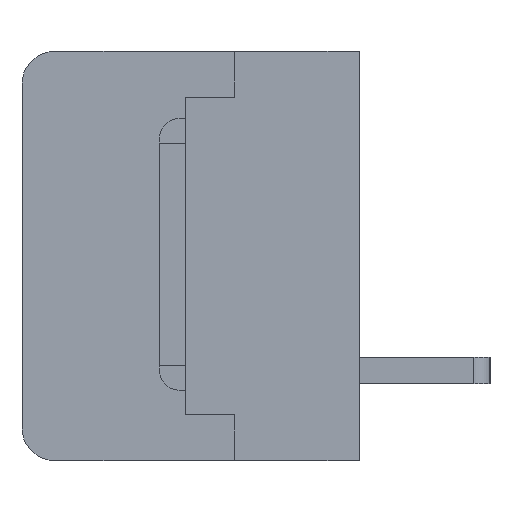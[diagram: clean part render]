
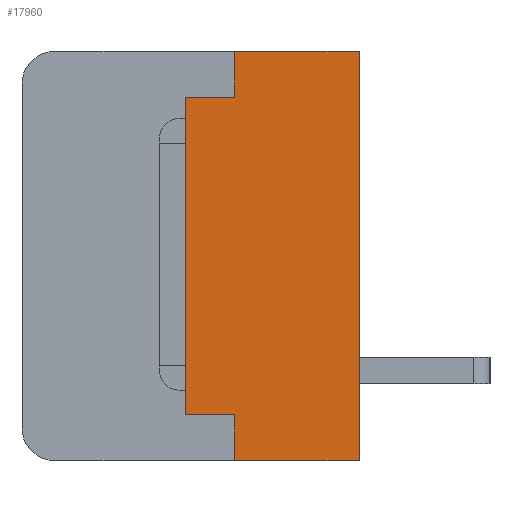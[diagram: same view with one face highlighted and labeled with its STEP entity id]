
A CAD part, left-side view. The second image highlights one B-rep face of the part: STEP entity #17960.
In plain terms, the highlighted planar face has unit normal (-1, 0, 0).
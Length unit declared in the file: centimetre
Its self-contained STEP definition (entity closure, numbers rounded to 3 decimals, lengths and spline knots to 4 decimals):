
#2471=VERTEX_POINT('',#27931);
#2472=VERTEX_POINT('',#27933);
#2474=VERTEX_POINT('',#27940);
#2475=VERTEX_POINT('',#27944);
#2476=VERTEX_POINT('',#27948);
#2477=VERTEX_POINT('',#27952);
#2478=VERTEX_POINT('',#27956);
#2479=VERTEX_POINT('',#27960);
#4382=VECTOR('',#21993,1.);
#4384=VECTOR('',#22000,1.);
#4387=VECTOR('',#22004,1.);
#4389=VECTOR('',#22007,1.);
#4391=VECTOR('',#22010,1.);
#4393=VECTOR('',#22013,1.);
#4395=VECTOR('',#22016,1.);
#4396=VECTOR('',#22018,1.);
#6358=LINE('',#27932,#4382);
#6360=LINE('',#27939,#4384);
#6363=LINE('',#27945,#4387);
#6365=LINE('',#27949,#4389);
#6367=LINE('',#27953,#4391);
#6369=LINE('',#27957,#4393);
#6371=LINE('',#27961,#4395);
#6372=LINE('',#27963,#4396);
#8970=EDGE_CURVE('',#2471,#2472,#6358,.T.);
#8974=EDGE_CURVE('',#2472,#2474,#6360,.T.);
#8977=EDGE_CURVE('',#2475,#2471,#6363,.T.);
#8979=EDGE_CURVE('',#2476,#2475,#6365,.T.);
#8981=EDGE_CURVE('',#2477,#2476,#6367,.T.);
#8983=EDGE_CURVE('',#2478,#2477,#6369,.T.);
#8985=EDGE_CURVE('',#2479,#2478,#6371,.T.);
#8986=EDGE_CURVE('',#2474,#2479,#6372,.T.);
#13926=ORIENTED_EDGE('',*,*,#8986,.F.);
#13927=ORIENTED_EDGE('',*,*,#8974,.F.);
#13928=ORIENTED_EDGE('',*,*,#8970,.F.);
#13929=ORIENTED_EDGE('',*,*,#8977,.F.);
#13930=ORIENTED_EDGE('',*,*,#8979,.F.);
#13931=ORIENTED_EDGE('',*,*,#8981,.F.);
#13932=ORIENTED_EDGE('',*,*,#8983,.F.);
#13933=ORIENTED_EDGE('',*,*,#8985,.F.);
#15818=EDGE_LOOP('',(#13926,#13927,#13928,#13929,#13930,#13931,#13932,#13933));
#16928=FACE_BOUND('',#15818,.T.);
#17960=ADVANCED_FACE('',(#16928),#18730,.F.);
#18730=PLANE('',#30496);
#21993=DIRECTION('',(0.,0.,1.));
#22000=DIRECTION('',(0.,-1.,0.));
#22004=DIRECTION('',(0.,1.,0.));
#22007=DIRECTION('',(0.,0.,1.));
#22010=DIRECTION('',(0.,1.,0.));
#22013=DIRECTION('',(0.,0.,-1.));
#22016=DIRECTION('',(0.,-1.,0.));
#22018=DIRECTION('',(0.,0.,1.));
#22019=DIRECTION('',(1.,0.,0.));
#27931=CARTESIAN_POINT('',(-1.382,0.53,-0.485));
#27932=CARTESIAN_POINT('',(-1.382,0.53,-0.485));
#27933=CARTESIAN_POINT('',(-1.382,0.53,0.485));
#27939=CARTESIAN_POINT('',(-1.382,0.53,0.485));
#27940=CARTESIAN_POINT('',(-1.382,0.38,0.485));
#27944=CARTESIAN_POINT('',(-1.382,0.38,-0.485));
#27945=CARTESIAN_POINT('',(-1.382,0.38,-0.485));
#27948=CARTESIAN_POINT('',(-1.382,0.38,-0.625));
#27949=CARTESIAN_POINT('',(-1.382,0.38,-0.625));
#27952=CARTESIAN_POINT('',(-1.382,0.,-0.625));
#27953=CARTESIAN_POINT('',(-1.382,0.,-0.625));
#27956=CARTESIAN_POINT('',(-1.382,0.,0.625));
#27957=CARTESIAN_POINT('',(-1.382,0.,0.625));
#27960=CARTESIAN_POINT('',(-1.382,0.38,0.625));
#27961=CARTESIAN_POINT('',(-1.382,0.38,0.625));
#27963=CARTESIAN_POINT('',(-1.382,0.38,0.485));
#27964=CARTESIAN_POINT('',(-1.382,0.2532,0.));
#30496=AXIS2_PLACEMENT_3D('',#27964,#22019,$);
